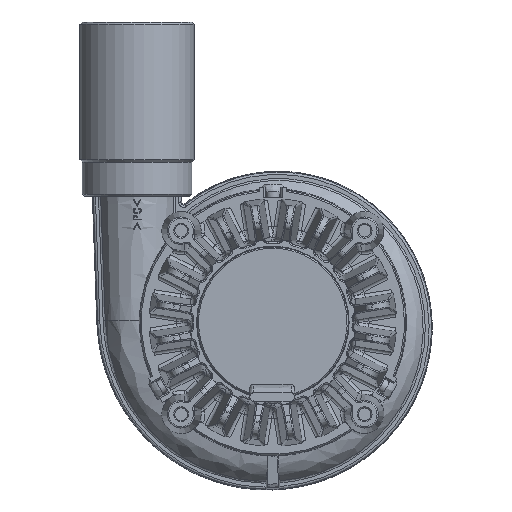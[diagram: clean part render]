
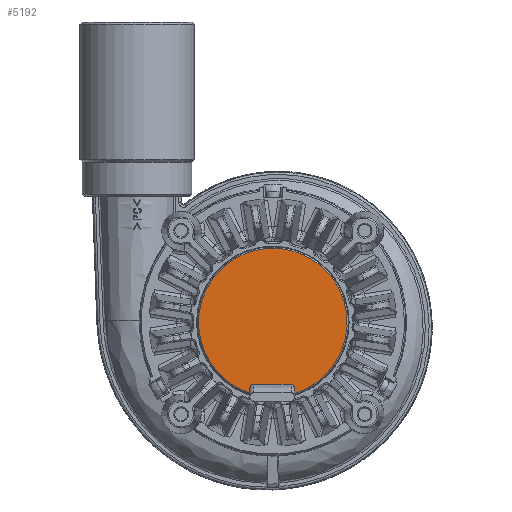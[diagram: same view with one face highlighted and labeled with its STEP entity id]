
A CAD part, front view. The second image highlights one B-rep face of the part: STEP entity #5192.
In plain terms, the highlighted planar face has unit normal (0, -1, 0).
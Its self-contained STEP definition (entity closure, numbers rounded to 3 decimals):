
#1164=FACE_BOUND('',#8459,.T.);
#1165=FACE_BOUND('',#8460,.T.);
#1339=PLANE('',#26642);
#1900=LINE('',#32757,#3124);
#1902=LINE('',#32870,#3127);
#2105=LINE('',#50473,#3331);
#2106=LINE('',#50475,#3332);
#3124=VECTOR('',#27645,1.);
#3127=VECTOR('',#27650,1.);
#3331=VECTOR('',#29630,1.);
#3332=VECTOR('',#29633,1.);
#5192=ADVANCED_FACE('',(#1164,#1165),#1339,.T.);
#8459=EDGE_LOOP('',(#13594,#13595,#13596,#13597));
#8460=EDGE_LOOP('',(#13598,#13599,#13600,#13601));
#9249=CIRCLE('',#25759,0.75);
#9250=CIRCLE('',#25760,0.75);
#9676=CIRCLE('',#26631,16.5);
#9678=CIRCLE('',#26638,16.2);
#13594=ORIENTED_EDGE('',*,*,#20047,.T.);
#13595=ORIENTED_EDGE('',*,*,#20051,.T.);
#13596=ORIENTED_EDGE('',*,*,#20054,.T.);
#13597=ORIENTED_EDGE('',*,*,#20056,.T.);
#13598=ORIENTED_EDGE('',*,*,#21968,.T.);
#13599=ORIENTED_EDGE('',*,*,#21971,.F.);
#13600=ORIENTED_EDGE('',*,*,#21965,.F.);
#13601=ORIENTED_EDGE('',*,*,#21970,.F.);
#17645=VERTEX_POINT('',#32691);
#17646=VERTEX_POINT('',#32693);
#17648=VERTEX_POINT('',#32756);
#17650=VERTEX_POINT('',#32812);
#18756=VERTEX_POINT('',#50458);
#18757=VERTEX_POINT('',#50460);
#18758=VERTEX_POINT('',#50468);
#18759=VERTEX_POINT('',#50470);
#20047=EDGE_CURVE('',#17646,#17645,#9249,.T.);
#20051=EDGE_CURVE('',#17645,#17648,#1900,.T.);
#20054=EDGE_CURVE('',#17648,#17650,#9250,.T.);
#20056=EDGE_CURVE('',#17650,#17646,#1902,.T.);
#21965=EDGE_CURVE('',#18756,#18757,#9676,.T.);
#21968=EDGE_CURVE('',#18759,#18758,#9678,.T.);
#21970=EDGE_CURVE('',#18759,#18756,#2105,.T.);
#21971=EDGE_CURVE('',#18757,#18758,#2106,.T.);
#25759=AXIS2_PLACEMENT_3D('',#32692,#27642,#27643);
#25760=AXIS2_PLACEMENT_3D('',#32813,#27647,#27648);
#26631=AXIS2_PLACEMENT_3D('',#50459,#29609,#29610);
#26638=AXIS2_PLACEMENT_3D('',#50469,#29624,#29625);
#26642=AXIS2_PLACEMENT_3D('',#50476,#29634,#29635);
#27642=DIRECTION('',(0.,1.,0.));
#27643=DIRECTION('',(0.,0.,-1.));
#27645=DIRECTION('',(-1.,0.,0.));
#27647=DIRECTION('',(0.,1.,0.));
#27648=DIRECTION('',(0.,0.,1.));
#27650=DIRECTION('',(1.,0.,0.));
#29609=DIRECTION('',(0.,1.,0.));
#29610=DIRECTION('',(0.,0.,-1.));
#29624=DIRECTION('',(0.,-1.,0.));
#29625=DIRECTION('',(0.,0.,1.));
#29630=DIRECTION('',(0.,0.,-1.));
#29633=DIRECTION('',(0.,0.,1.));
#29634=DIRECTION('',(0.,-1.,0.));
#29635=DIRECTION('',(0.,0.,1.));
#32691=CARTESIAN_POINT('',(4.,-27.559,-14.992));
#32692=CARTESIAN_POINT('',(4.,-27.559,-14.242));
#32693=CARTESIAN_POINT('',(4.,-27.559,-13.492));
#32756=CARTESIAN_POINT('',(-4.25,-27.559,-14.992));
#32757=CARTESIAN_POINT('',(-0.125,-27.559,-14.992));
#32812=CARTESIAN_POINT('',(-4.25,-27.559,-13.492));
#32813=CARTESIAN_POINT('',(-4.25,-27.559,-14.242));
#32870=CARTESIAN_POINT('',(-0.125,-27.559,-13.492));
#50458=CARTESIAN_POINT('',(5.,-27.559,-15.728));
#50459=CARTESIAN_POINT('',(0.,-27.559,-0.004));
#50460=CARTESIAN_POINT('',(-5.,-27.559,-15.728));
#50468=CARTESIAN_POINT('',(-5.,-27.559,-15.413));
#50469=CARTESIAN_POINT('',(0.,-27.559,-0.004));
#50470=CARTESIAN_POINT('',(5.,-27.559,-15.413));
#50473=CARTESIAN_POINT('',(5.,-27.559,-13.004));
#50475=CARTESIAN_POINT('',(-5.,-27.559,-15.728));
#50476=CARTESIAN_POINT('',(0.,-27.559,-16.504));
